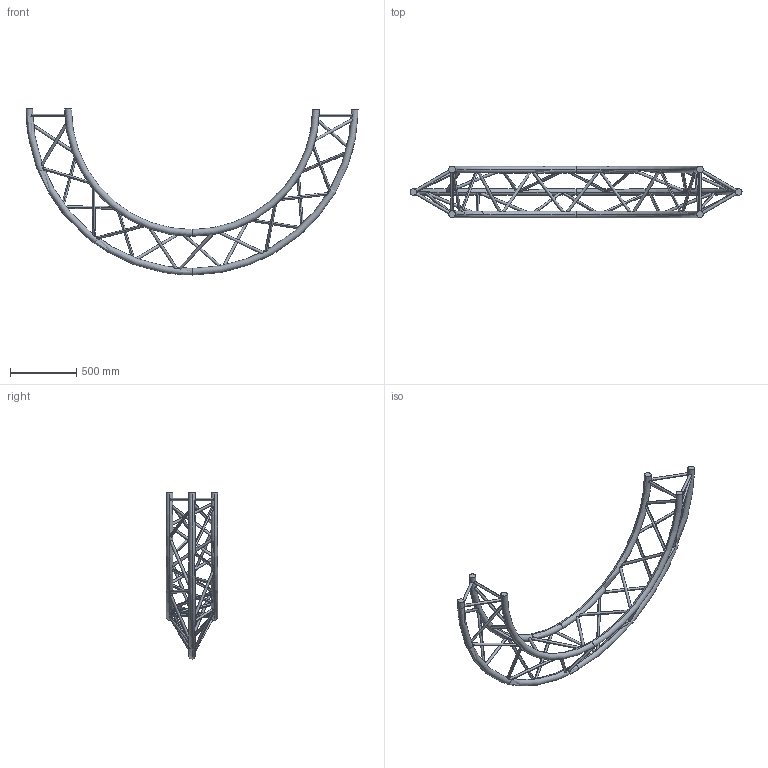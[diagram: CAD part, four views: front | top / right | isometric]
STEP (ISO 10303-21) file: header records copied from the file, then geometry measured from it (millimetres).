
FILE_DESCRIPTION (( 'STEP AP203' ), '1' );
FILE_NAME ('SXC39250PE.STEP', '2009-10-21T11:55:39', ( 'CEDIA' ), ( 'CEDIA INDUSTRIE' ), 'SwSTEP 2.0', 'SolidWorks 2009', '' );
FILE_SCHEMA (( 'CONFIG_CONTROL_DESIGN' ));
Length unit declared in the file: millimetre
Products named in the file (1): SXC39250PE
Bounding box: 2500 x 387 x 1250 mm (x, y, z)
Volume: 23471793.9 mm3; surface area: 2389407 mm2
Topology: 1 solids, 1 shells, 96 faces, 264 edges, 174 vertices
Faces by surface type: cylinder 78, torus 12, plane 6
Entity records: 10651 total; most frequent: CARTESIAN_POINT 8263, ORIENTED_EDGE 528, DIRECTION 332, EDGE_CURVE 264, EDGE_LOOP 174, VERTEX_POINT 174, B_SPLINE_CURVE_WITH_KNOTS 156, AXIS2_PLACEMENT_3D 127
